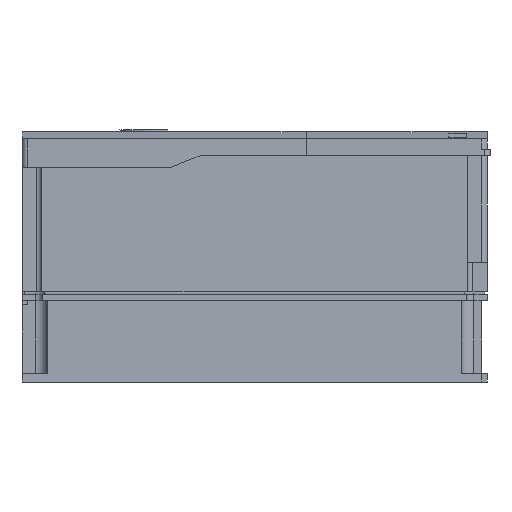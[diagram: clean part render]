
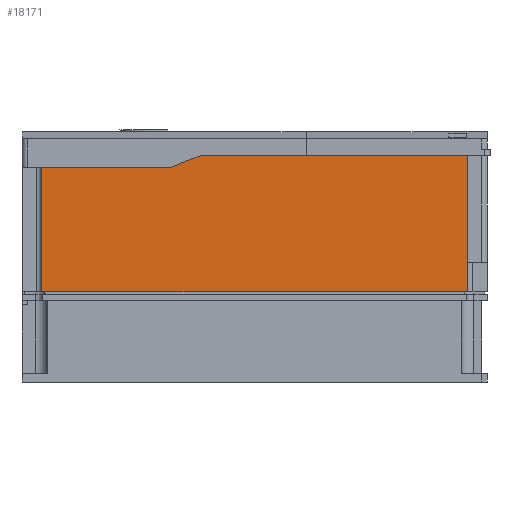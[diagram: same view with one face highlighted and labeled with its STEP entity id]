
A CAD part, left-side view. The second image highlights one B-rep face of the part: STEP entity #18171.
In plain terms, the highlighted planar face has unit normal (-1, 0, 0).
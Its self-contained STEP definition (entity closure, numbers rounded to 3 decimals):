
#3337=DIRECTION('',(0.,-1.,0.));
#3338=VECTOR('',#3337,238.);
#3339=CARTESIAN_POINT('',(-75.,119.,50.5));
#3340=LINE('',#3339,#3338);
#5208=DIRECTION('',(0.,-1.,0.));
#5209=VECTOR('',#5208,149.5);
#5210=CARTESIAN_POINT('',(-75.,30.5,126.5));
#5211=LINE('',#5210,#5209);
#5324=DIRECTION('',(0.,-1.,0.));
#5325=VECTOR('',#5324,72.);
#5326=CARTESIAN_POINT('',(-75.,119.,120.));
#5327=LINE('',#5326,#5325);
#5328=DIRECTION('',(0.,0.93,-0.367));
#5329=VECTOR('',#5328,17.734);
#5330=CARTESIAN_POINT('',(-75.,30.5,126.5));
#5331=LINE('',#5330,#5329);
#5332=DIRECTION('',(0.,0.,1.));
#5333=VECTOR('',#5332,76.);
#5334=CARTESIAN_POINT('',(-75.,-119.,50.5));
#5335=LINE('',#5334,#5333);
#5336=DIRECTION('',(0.,0.,1.));
#5337=VECTOR('',#5336,69.5);
#5338=CARTESIAN_POINT('',(-75.,119.,50.5));
#5339=LINE('',#5338,#5337);
#9491=CARTESIAN_POINT('',(-75.,-119.,50.5));
#9492=CARTESIAN_POINT('',(-75.,-119.,126.5));
#9493=VERTEX_POINT('',#9491);
#9494=VERTEX_POINT('',#9492);
#9499=CARTESIAN_POINT('',(-75.,119.,50.5));
#9500=VERTEX_POINT('',#9499);
#9731=CARTESIAN_POINT('',(-75.,119.,120.));
#9732=CARTESIAN_POINT('',(-75.,47.,120.));
#9733=VERTEX_POINT('',#9731);
#9734=VERTEX_POINT('',#9732);
#9735=CARTESIAN_POINT('',(-75.,30.5,126.5));
#9736=VERTEX_POINT('',#9735);
#18156=CARTESIAN_POINT('',(-75.,130.,50.5));
#18157=DIRECTION('',(-1.,0.,0.));
#18158=DIRECTION('',(0.,-1.,0.));
#18159=AXIS2_PLACEMENT_3D('',#18156,#18157,#18158);
#18160=PLANE('',#18159);
#18161=ORIENTED_EDGE('',*,*,#15071,.T.);
#18163=ORIENTED_EDGE('',*,*,#18162,.F.);
#18164=ORIENTED_EDGE('',*,*,#17999,.T.);
#18165=ORIENTED_EDGE('',*,*,#18126,.F.);
#18166=ORIENTED_EDGE('',*,*,#15478,.F.);
#18168=ORIENTED_EDGE('',*,*,#18167,.T.);
#18169=EDGE_LOOP('',(#18161,#18163,#18164,#18165,#18166,#18168));
#18170=FACE_OUTER_BOUND('',#18169,.F.);
#18171=ADVANCED_FACE('',(#18170),#18160,.T.);
#15071=EDGE_CURVE('',#9733,#9734,#5327,.T.);
#15478=EDGE_CURVE('',#9500,#9493,#3340,.T.);
#17999=EDGE_CURVE('',#9736,#9494,#5211,.T.);
#18126=EDGE_CURVE('',#9493,#9494,#5335,.T.);
#18162=EDGE_CURVE('',#9736,#9734,#5331,.T.);
#18167=EDGE_CURVE('',#9500,#9733,#5339,.T.);
